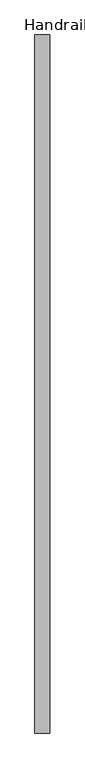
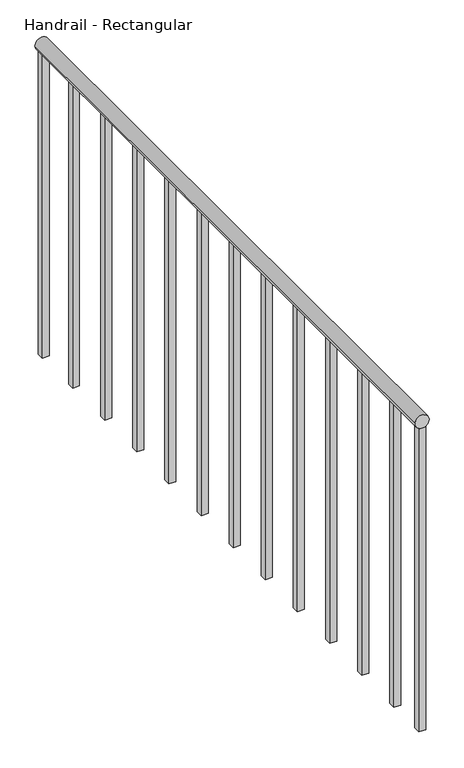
"""IFC4 building model written with IfcOpenShell, lengths in millimetres: railing geometry, Handrail - Rectangular."""

from ifc_helpers import new_model, si_unit, point, frame, frame_2d, origin, place, context, project, spatial, polyline, circle_curve, trimmed, segment, composite_curve, outline, extrude, source, transform, mapped, element, save


def handrail_rectangular_a0d233dd(model_context):
    return source(origin(), model_context, "Body", "SweptSolid", [
        extrude(outline(composite_curve([segment(trimmed(circle_curve(frame_2d((3943.35, 2297.1410437)), 19.05), [point((3943.35, 2316.1910437))], [point((3943.35, 2278.0910437))], False, "CARTESIAN"), True, "CONTINUOUS"), segment(trimmed(circle_curve(frame_2d((3943.35, 2297.1410437)), 19.05), [point((3943.35, 2278.0910437))], [point((3943.35, 2316.1910437))], False, "CARTESIAN"), True, "CONTINUOUS")], self_intersect=False)), frame((0.0, 8414.2316867, 0.0), z_axis=(0.0, 1.0, 0.0), x_axis=(0.0, 0.0, 1.0)), (0.0, 0.0, 1.0), 1803.4),
        extrude(outline(polyline([(2287.6160437, 8550.7566867), (2306.6660437, 8550.7566867), (2306.6660437, 8531.7066867), (2287.6160437, 8531.7066867), (2287.6160437, 8550.7566867)])), frame((0.0, 0.0, 3048.0), z_axis=(0.0, 0.0, 1.0), x_axis=(1.0, 0.0, 0.0)), (0.0, 0.0, 1.0), 876.3),
        extrude(outline(polyline([(2287.6160437, 8703.1566867), (2306.6660437, 8703.1566867), (2306.6660437, 8684.1066867), (2287.6160437, 8684.1066867), (2287.6160437, 8703.1566867)])), frame((0.0, 0.0, 3048.0), z_axis=(0.0, 0.0, 1.0), x_axis=(1.0, 0.0, 0.0)), (0.0, 0.0, 1.0), 876.3),
        extrude(outline(polyline([(2287.6160437, 8855.5566867), (2306.6660437, 8855.5566867), (2306.6660437, 8836.5066867), (2287.6160437, 8836.5066867), (2287.6160437, 8855.5566867)])), frame((0.0, 0.0, 3048.0), z_axis=(0.0, 0.0, 1.0), x_axis=(1.0, 0.0, 0.0)), (0.0, 0.0, 1.0), 876.3),
        extrude(outline(polyline([(2287.6160437, 9007.9566867), (2306.6660437, 9007.9566867), (2306.6660437, 8988.9066867), (2287.6160437, 8988.9066867), (2287.6160437, 9007.9566867)])), frame((0.0, 0.0, 3048.0), z_axis=(0.0, 0.0, 1.0), x_axis=(1.0, 0.0, 0.0)), (0.0, 0.0, 1.0), 876.3),
        extrude(outline(polyline([(2287.6160437, 9160.3566867), (2306.6660437, 9160.3566867), (2306.6660437, 9141.3066867), (2287.6160437, 9141.3066867), (2287.6160437, 9160.3566867)])), frame((0.0, 0.0, 3048.0), z_axis=(0.0, 0.0, 1.0), x_axis=(1.0, 0.0, 0.0)), (0.0, 0.0, 1.0), 876.3),
        extrude(outline(polyline([(2287.6160437, 9312.7566867), (2306.6660437, 9312.7566867), (2306.6660437, 9293.7066867), (2287.6160437, 9293.7066867), (2287.6160437, 9312.7566867)])), frame((0.0, 0.0, 3048.0), z_axis=(0.0, 0.0, 1.0), x_axis=(1.0, 0.0, 0.0)), (0.0, 0.0, 1.0), 876.3),
        extrude(outline(polyline([(2287.6160437, 9465.1566867), (2306.6660437, 9465.1566867), (2306.6660437, 9446.1066867), (2287.6160437, 9446.1066867), (2287.6160437, 9465.1566867)])), frame((0.0, 0.0, 3048.0), z_axis=(0.0, 0.0, 1.0), x_axis=(1.0, 0.0, 0.0)), (0.0, 0.0, 1.0), 876.3),
        extrude(outline(polyline([(2287.6160437, 9617.5566867), (2306.6660437, 9617.5566867), (2306.6660437, 9598.5066867), (2287.6160437, 9598.5066867), (2287.6160437, 9617.5566867)])), frame((0.0, 0.0, 3048.0), z_axis=(0.0, 0.0, 1.0), x_axis=(1.0, 0.0, 0.0)), (0.0, 0.0, 1.0), 876.3),
        extrude(outline(polyline([(2287.6160437, 9769.9566867), (2306.6660437, 9769.9566867), (2306.6660437, 9750.9066867), (2287.6160437, 9750.9066867), (2287.6160437, 9769.9566867)])), frame((0.0, 0.0, 3048.0), z_axis=(0.0, 0.0, 1.0), x_axis=(1.0, 0.0, 0.0)), (0.0, 0.0, 1.0), 876.3),
        extrude(outline(polyline([(2287.6160437, 9922.3566867), (2306.6660437, 9922.3566867), (2306.6660437, 9903.3066867), (2287.6160437, 9903.3066867), (2287.6160437, 9922.3566867)])), frame((0.0, 0.0, 3048.0), z_axis=(0.0, 0.0, 1.0), x_axis=(1.0, 0.0, 0.0)), (0.0, 0.0, 1.0), 876.3),
        extrude(outline(polyline([(2287.6160437, 10074.7566867), (2306.6660437, 10074.7566867), (2306.6660437, 10055.7066867), (2287.6160437, 10055.7066867), (2287.6160437, 10074.7566867)])), frame((0.0, 0.0, 3048.0), z_axis=(0.0, 0.0, 1.0), x_axis=(1.0, 0.0, 0.0)), (0.0, 0.0, 1.0), 876.3),
        extrude(outline(polyline([(2287.6160437, 8433.2816867), (2306.6660437, 8433.2816867), (2306.6660437, 8414.2316867), (2287.6160437, 8414.2316867), (2287.6160437, 8433.2816867)])), frame((0.0, 0.0, 3048.0), z_axis=(0.0, 0.0, 1.0), x_axis=(1.0, 0.0, 0.0)), (0.0, 0.0, 1.0), 876.3),
        extrude(outline(polyline([(2287.6160437, 10217.6316867), (2306.6660437, 10217.6316867), (2306.6660437, 10198.5816867), (2287.6160437, 10198.5816867), (2287.6160437, 10217.6316867)])), frame((0.0, 0.0, 3048.0), z_axis=(0.0, 0.0, 1.0), x_axis=(1.0, 0.0, 0.0)), (0.0, 0.0, 1.0), 876.3),
    ])


if __name__ == "__main__":
    model = new_model("IFC4")
    model_context = context("Model", 3, world=origin())
    ifc_project = project(units=[si_unit("LENGTHUNIT", "METRE", prefix="MILLI")], contexts=[model_context])
    site = spatial("IfcSite", under=ifc_project)
    building = spatial("IfcBuilding", under=site)
    placement = place(None, origin())
    handrail_rectangular_shape = handrail_rectangular_a0d233dd(model_context)
    element("IfcRailing", 1, ObjectType="Handrail - Rectangular", at=placement, inside=building, context=model_context, shape_type="MappedRepresentation", body=[
        mapped(handrail_rectangular_shape, transform((0.0, 0.0, 0.0), x_axis=(1.0, 0.0, 0.0), y_axis=(0.0, 1.0, 0.0), z_axis=(0.0, 0.0, 1.0))),
    ])
    save(model, "model.ifc")
